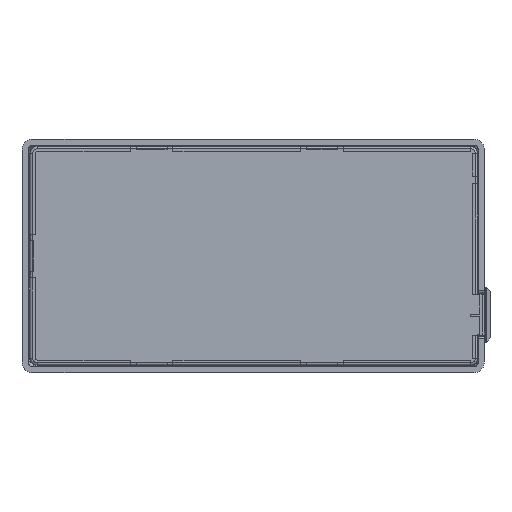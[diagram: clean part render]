
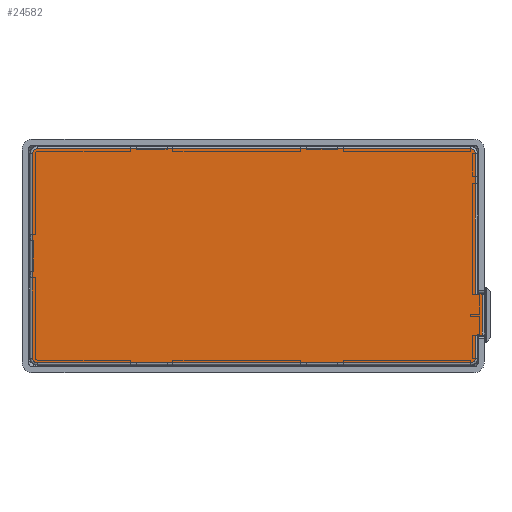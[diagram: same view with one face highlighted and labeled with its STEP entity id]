
A CAD part, top view. The second image highlights one B-rep face of the part: STEP entity #24582.
In plain terms, the highlighted planar face has unit normal (0, 0, 1) as drawn and (0, 0, -1) by its records, which use the part's own axes.
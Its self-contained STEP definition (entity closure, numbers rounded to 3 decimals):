
#960=CIRCLE('',#25870,1.973);
#961=CIRCLE('',#25871,1.973);
#962=CIRCLE('',#25872,1.973);
#963=CIRCLE('',#25873,1.973);
#1941=LINE('',#34653,#3709);
#1947=LINE('',#34681,#3715);
#2008=LINE('',#34945,#3776);
#2009=LINE('',#34949,#3777);
#2010=LINE('',#34953,#3778);
#2011=LINE('',#34957,#3779);
#2012=LINE('',#34961,#3780);
#2013=LINE('',#34962,#3781);
#3709=VECTOR('',#28797,1000.);
#3715=VECTOR('',#28805,1000.);
#3776=VECTOR('',#28898,1000.);
#3777=VECTOR('',#28901,1000.);
#3778=VECTOR('',#28904,1000.);
#3779=VECTOR('',#28907,1000.);
#3780=VECTOR('',#28910,1000.);
#3781=VECTOR('',#28911,1000.);
#7063=ORIENTED_EDGE('',*,*,#11360,.T.);
#7064=ORIENTED_EDGE('',*,*,#11461,.F.);
#7065=ORIENTED_EDGE('',*,*,#11462,.F.);
#7066=ORIENTED_EDGE('',*,*,#11463,.F.);
#7067=ORIENTED_EDGE('',*,*,#11464,.F.);
#7068=ORIENTED_EDGE('',*,*,#11465,.F.);
#7069=ORIENTED_EDGE('',*,*,#11466,.F.);
#7070=ORIENTED_EDGE('',*,*,#11467,.F.);
#7071=ORIENTED_EDGE('',*,*,#11468,.F.);
#7072=ORIENTED_EDGE('',*,*,#11469,.F.);
#7073=ORIENTED_EDGE('',*,*,#11369,.T.);
#7074=ORIENTED_EDGE('',*,*,#11470,.F.);
#11360=EDGE_CURVE('',#13759,#13760,#1941,.T.);
#11369=EDGE_CURVE('',#13768,#13767,#1947,.T.);
#11461=EDGE_CURVE('',#13831,#13760,#2008,.T.);
#11462=EDGE_CURVE('',#13832,#13831,#960,.T.);
#11463=EDGE_CURVE('',#13833,#13832,#2009,.T.);
#11464=EDGE_CURVE('',#13834,#13833,#961,.T.);
#11465=EDGE_CURVE('',#13835,#13834,#2010,.T.);
#11466=EDGE_CURVE('',#13836,#13835,#962,.T.);
#11467=EDGE_CURVE('',#13837,#13836,#2011,.T.);
#11468=EDGE_CURVE('',#13838,#13837,#963,.T.);
#11469=EDGE_CURVE('',#13768,#13838,#2012,.T.);
#11470=EDGE_CURVE('',#13759,#13767,#2013,.T.);
#13759=VERTEX_POINT('',#34654);
#13760=VERTEX_POINT('',#34655);
#13767=VERTEX_POINT('',#34680);
#13768=VERTEX_POINT('',#34682);
#13831=VERTEX_POINT('',#34946);
#13832=VERTEX_POINT('',#34948);
#13833=VERTEX_POINT('',#34950);
#13834=VERTEX_POINT('',#34952);
#13835=VERTEX_POINT('',#34954);
#13836=VERTEX_POINT('',#34956);
#13837=VERTEX_POINT('',#34958);
#13838=VERTEX_POINT('',#34960);
#15326=EDGE_LOOP('',(#7063,#7064,#7065,#7066,#7067,#7068,#7069,#7070,#7071,
#7072,#7073,#7074));
#16438=FACE_BOUND('',#15326,.T.);
#17314=PLANE('',#25869);
#24582=ADVANCED_FACE('',(#16438),#17314,.T.);
#25869=AXIS2_PLACEMENT_3D('',#34944,#28896,#28897);
#25870=AXIS2_PLACEMENT_3D('',#34947,#28899,#28900);
#25871=AXIS2_PLACEMENT_3D('',#34951,#28902,#28903);
#25872=AXIS2_PLACEMENT_3D('',#34955,#28905,#28906);
#25873=AXIS2_PLACEMENT_3D('',#34959,#28908,#28909);
#28797=DIRECTION('',(1.,0.,0.));
#28805=DIRECTION('',(-1.,0.,0.));
#28896=DIRECTION('',(0.,0.,-1.));
#28897=DIRECTION('',(0.,-1.,0.));
#28898=DIRECTION('',(0.,-1.,0.));
#28899=DIRECTION('',(0.,0.,1.));
#28900=DIRECTION('',(0.,1.,0.));
#28901=DIRECTION('',(-1.,0.,0.));
#28902=DIRECTION('',(0.,0.,1.));
#28903=DIRECTION('',(1.,0.,0.));
#28904=DIRECTION('',(0.,1.,0.));
#28905=DIRECTION('',(0.,0.,1.));
#28906=DIRECTION('',(0.,-1.,0.));
#28907=DIRECTION('',(1.,0.,0.));
#28908=DIRECTION('',(0.,0.,1.));
#28909=DIRECTION('',(-1.,0.,0.));
#28910=DIRECTION('',(0.,-1.,0.));
#28911=DIRECTION('',(0.,-1.,0.));
#34653=CARTESIAN_POINT('',(-862.9,284.84,265.6));
#34654=CARTESIAN_POINT('',(-862.9,284.84,265.6));
#34655=CARTESIAN_POINT('',(-860.082,284.84,265.6));
#34680=CARTESIAN_POINT('',(-862.9,268.14,265.6));
#34681=CARTESIAN_POINT('',(-860.082,268.14,265.6));
#34682=CARTESIAN_POINT('',(-860.082,268.14,265.6));
#34944=CARTESIAN_POINT('',(-770.517,300.64,265.6));
#34945=CARTESIAN_POINT('',(-860.082,342.64,265.6));
#34946=CARTESIAN_POINT('',(-860.082,342.64,265.6));
#34947=CARTESIAN_POINT('',(-858.108,342.64,265.6));
#34948=CARTESIAN_POINT('',(-858.108,344.614,265.6));
#34949=CARTESIAN_POINT('',(-680.108,344.614,265.6));
#34950=CARTESIAN_POINT('',(-680.108,344.614,265.6));
#34951=CARTESIAN_POINT('',(-680.108,342.64,265.6));
#34952=CARTESIAN_POINT('',(-678.135,342.64,265.6));
#34953=CARTESIAN_POINT('',(-678.135,258.64,265.6));
#34954=CARTESIAN_POINT('',(-678.135,258.64,265.6));
#34955=CARTESIAN_POINT('',(-680.108,258.64,265.6));
#34956=CARTESIAN_POINT('',(-680.108,256.667,265.6));
#34957=CARTESIAN_POINT('',(-858.108,256.667,265.6));
#34958=CARTESIAN_POINT('',(-858.108,256.667,265.6));
#34959=CARTESIAN_POINT('',(-858.108,258.64,265.6));
#34960=CARTESIAN_POINT('',(-860.082,258.64,265.6));
#34961=CARTESIAN_POINT('',(-860.082,268.14,265.6));
#34962=CARTESIAN_POINT('',(-862.9,284.84,265.6));
